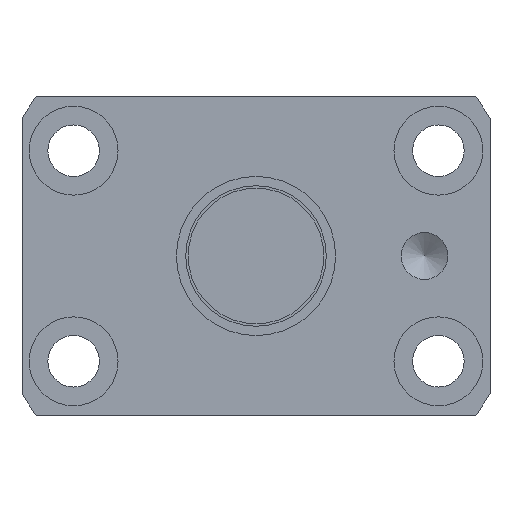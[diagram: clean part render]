
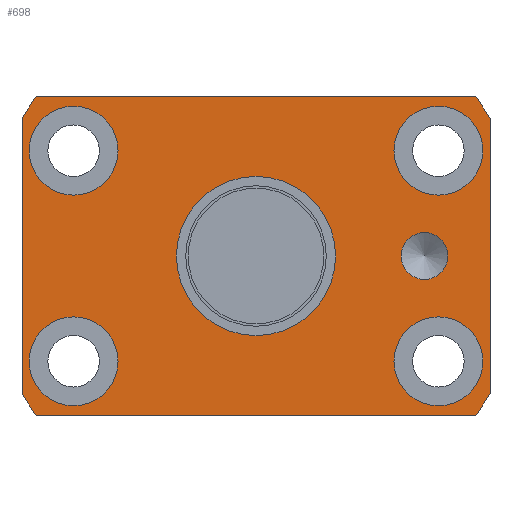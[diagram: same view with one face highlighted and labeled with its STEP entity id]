
A CAD part, left-side view. The second image highlights one B-rep face of the part: STEP entity #698.
In plain terms, the highlighted planar face has unit normal (-1, 0, 0).
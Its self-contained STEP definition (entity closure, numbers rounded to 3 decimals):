
#62 = EDGE_CURVE ( 'NONE', #2269, #2269, #3252, .T. ) ;
#89 = EDGE_CURVE ( 'NONE', #1764, #626, #232, .T. ) ;
#107 = EDGE_LOOP ( 'NONE', ( #3181 ) ) ;
#112 = CARTESIAN_POINT ( 'NONE',  ( 0., -19.486, 11.25 ) ) ;
#125 = LINE ( 'NONE', #908, #2902 ) ;
#139 = CIRCLE ( 'NONE', #814, 29. ) ;
#183 = DIRECTION ( 'NONE',  ( 0., 1., 0. ) ) ;
#204 = CARTESIAN_POINT ( 'NONE',  ( 0., -25., -17. ) ) ;
#208 = EDGE_CURVE ( 'NONE', #475, #475, #1266, .T. ) ;
#222 = ORIENTED_EDGE ( 'NONE', *, *, #2153, .F. ) ;
#232 = CIRCLE ( 'NONE', #1601, 29. ) ;
#262 = LINE ( 'NONE', #2767, #2720 ) ;
#310 = EDGE_LOOP ( 'NONE', ( #3323 ) ) ;
#321 = CARTESIAN_POINT ( 'NONE',  ( 0., 25., -14.697 ) ) ;
#322 = VERTEX_POINT ( 'NONE', #1827 ) ;
#345 = ORIENTED_EDGE ( 'NONE', *, *, #1289, .F. ) ;
#347 = ORIENTED_EDGE ( 'NONE', *, *, #3199, .F. ) ;
#413 = CIRCLE ( 'NONE', #2242, 8.5 ) ;
#432 = CARTESIAN_POINT ( 'NONE',  ( 0., -25., 14.697 ) ) ;
#460 = DIRECTION ( 'NONE',  ( 0., 1., 0. ) ) ;
#461 = DIRECTION ( 'NONE',  ( 0., 1., 0. ) ) ;
#475 = VERTEX_POINT ( 'NONE', #2033 ) ;
#484 = EDGE_CURVE ( 'NONE', #2578, #2578, #2936, .T. ) ;
#487 = FACE_BOUND ( 'NONE', #1405, .T. ) ;
#489 = DIRECTION ( 'NONE',  ( 0., -1., 0. ) ) ;
#523 = AXIS2_PLACEMENT_3D ( 'NONE', #1237, #2264, #183 ) ;
#525 = EDGE_CURVE ( 'NONE', #1711, #569, #1364, .T. ) ;
#569 = VERTEX_POINT ( 'NONE', #929 ) ;
#576 = EDGE_CURVE ( 'NONE', #1690, #1989, #1813, .T. ) ;
#606 = CARTESIAN_POINT ( 'NONE',  ( 0., 0., 0. ) ) ;
#626 = VERTEX_POINT ( 'NONE', #432 ) ;
#698 = ADVANCED_FACE ( 'NONE', ( #487, #1818, #3310, #2337, #3135, #2099, #2063 ), #3081, .T. ) ;
#763 = DIRECTION ( 'NONE',  ( 0., 1., 0. ) ) ;
#772 = DIRECTION ( 'NONE',  ( 0., 1., 0. ) ) ;
#814 = AXIS2_PLACEMENT_3D ( 'NONE', #2022, #3059, #763 ) ;
#816 = DIRECTION ( 'NONE',  ( 0., 1., 0. ) ) ;
#857 = AXIS2_PLACEMENT_3D ( 'NONE', #1511, #1295, #2790 ) ;
#908 = CARTESIAN_POINT ( 'NONE',  ( 0., -25., 17. ) ) ;
#929 = CARTESIAN_POINT ( 'NONE',  ( 0., 25., 14.697 ) ) ;
#987 = ORIENTED_EDGE ( 'NONE', *, *, #2118, .F. ) ;
#999 = DIRECTION ( 'NONE',  ( 0., 0., 1. ) ) ;
#1111 = CARTESIAN_POINT ( 'NONE',  ( 0., 19.486, 11.25 ) ) ;
#1121 = VERTEX_POINT ( 'NONE', #3226 ) ;
#1237 = CARTESIAN_POINT ( 'NONE',  ( 0., 0., 0. ) ) ;
#1266 = CIRCLE ( 'NONE', #2287, 4.75 ) ;
#1282 = ORIENTED_EDGE ( 'NONE', *, *, #484, .T. ) ;
#1287 = ORIENTED_EDGE ( 'NONE', *, *, #2396, .T. ) ;
#1289 = EDGE_CURVE ( 'NONE', #1121, #1711, #2620, .T. ) ;
#1295 = DIRECTION ( 'NONE',  ( -1., 0., 0. ) ) ;
#1302 = CARTESIAN_POINT ( 'NONE',  ( 0., 0., 0. ) ) ;
#1342 = DIRECTION ( 'NONE',  ( 1., 0., 0. ) ) ;
#1343 = CIRCLE ( 'NONE', #3321, 2.5 ) ;
#1364 = LINE ( 'NONE', #3201, #2937 ) ;
#1367 = CARTESIAN_POINT ( 'NONE',  ( 0., 8.5, 0. ) ) ;
#1402 = DIRECTION ( 'NONE',  ( 0., 1., 0. ) ) ;
#1405 = EDGE_LOOP ( 'NONE', ( #2109 ) ) ;
#1444 = ORIENTED_EDGE ( 'NONE', *, *, #525, .F. ) ;
#1445 = ORIENTED_EDGE ( 'NONE', *, *, #1880, .F. ) ;
#1474 = AXIS2_PLACEMENT_3D ( 'NONE', #1111, #1887, #2136 ) ;
#1476 = VERTEX_POINT ( 'NONE', #3066 ) ;
#1511 = CARTESIAN_POINT ( 'NONE',  ( 0., 12.75, 0. ) ) ;
#1567 = DIRECTION ( 'NONE',  ( 1., 0., 0. ) ) ;
#1594 = VERTEX_POINT ( 'NONE', #1635 ) ;
#1601 = AXIS2_PLACEMENT_3D ( 'NONE', #1302, #3110, #816 ) ;
#1635 = CARTESIAN_POINT ( 'NONE',  ( 0., 24.236, -11.25 ) ) ;
#1636 = DIRECTION ( 'NONE',  ( 0., 1., 0. ) ) ;
#1669 = AXIS2_PLACEMENT_3D ( 'NONE', #1999, #2073, #460 ) ;
#1690 = VERTEX_POINT ( 'NONE', #1888 ) ;
#1711 = VERTEX_POINT ( 'NONE', #321 ) ;
#1723 = EDGE_LOOP ( 'NONE', ( #1287 ) ) ;
#1750 = ORIENTED_EDGE ( 'NONE', *, *, #208, .T. ) ;
#1764 = VERTEX_POINT ( 'NONE', #1934 ) ;
#1774 = CARTESIAN_POINT ( 'NONE',  ( 0., 24.236, 11.25 ) ) ;
#1806 = LINE ( 'NONE', #204, #2461 ) ;
#1813 = CIRCLE ( 'NONE', #523, 29. ) ;
#1815 = AXIS2_PLACEMENT_3D ( 'NONE', #2780, #1567, #461 ) ;
#1818 = FACE_BOUND ( 'NONE', #310, .T. ) ;
#1827 = CARTESIAN_POINT ( 'NONE',  ( 0., -18., 2.5 ) ) ;
#1880 = EDGE_CURVE ( 'NONE', #1476, #1764, #262, .T. ) ;
#1887 = DIRECTION ( 'NONE',  ( 1., 0., 0. ) ) ;
#1888 = CARTESIAN_POINT ( 'NONE',  ( 0., -25., -14.697 ) ) ;
#1905 = DIRECTION ( 'NONE',  ( 0., 0., 1. ) ) ;
#1934 = CARTESIAN_POINT ( 'NONE',  ( 0., -23.495, 17. ) ) ;
#1972 = DIRECTION ( 'NONE',  ( -1., 0., 0. ) ) ;
#1989 = VERTEX_POINT ( 'NONE', #2064 ) ;
#1999 = CARTESIAN_POINT ( 'NONE',  ( 0., 19.486, -11.25 ) ) ;
#2022 = CARTESIAN_POINT ( 'NONE',  ( 0., 0., 0. ) ) ;
#2033 = CARTESIAN_POINT ( 'NONE',  ( 0., -14.736, 11.25 ) ) ;
#2038 = EDGE_CURVE ( 'NONE', #322, #322, #1343, .T. ) ;
#2063 = FACE_BOUND ( 'NONE', #1723, .T. ) ;
#2064 = CARTESIAN_POINT ( 'NONE',  ( 0., -23.495, -17. ) ) ;
#2073 = DIRECTION ( 'NONE',  ( 1., 0., 0. ) ) ;
#2096 = EDGE_LOOP ( 'NONE', ( #1750 ) ) ;
#2099 = FACE_OUTER_BOUND ( 'NONE', #2253, .T. ) ;
#2107 = DIRECTION ( 'NONE',  ( 1., 0., 0. ) ) ;
#2109 = ORIENTED_EDGE ( 'NONE', *, *, #2038, .F. ) ;
#2117 = VERTEX_POINT ( 'NONE', #1367 ) ;
#2118 = EDGE_CURVE ( 'NONE', #569, #1476, #139, .T. ) ;
#2136 = DIRECTION ( 'NONE',  ( 0., 1., 0. ) ) ;
#2142 = CIRCLE ( 'NONE', #1669, 4.75 ) ;
#2153 = EDGE_CURVE ( 'NONE', #1989, #1121, #1806, .T. ) ;
#2227 = CARTESIAN_POINT ( 'NONE',  ( 0., -18., 0. ) ) ;
#2242 = AXIS2_PLACEMENT_3D ( 'NONE', #606, #1342, #1636 ) ;
#2253 = EDGE_LOOP ( 'NONE', ( #222, #3180, #347, #2701, #1445, #987, #1444, #345 ) ) ;
#2264 = DIRECTION ( 'NONE',  ( 1., 0., 0. ) ) ;
#2269 = VERTEX_POINT ( 'NONE', #2291 ) ;
#2287 = AXIS2_PLACEMENT_3D ( 'NONE', #112, #2706, #1402 ) ;
#2291 = CARTESIAN_POINT ( 'NONE',  ( 0., -14.736, -11.25 ) ) ;
#2337 = FACE_BOUND ( 'NONE', #3349, .T. ) ;
#2383 = CARTESIAN_POINT ( 'NONE',  ( 0., -19.486, -11.25 ) ) ;
#2396 = EDGE_CURVE ( 'NONE', #2117, #2117, #413, .T. ) ;
#2460 = DIRECTION ( 'NONE',  ( 0., 0., -1. ) ) ;
#2461 = VECTOR ( 'NONE', #772, 1000. ) ;
#2578 = VERTEX_POINT ( 'NONE', #1774 ) ;
#2620 = CIRCLE ( 'NONE', #1815, 29. ) ;
#2701 = ORIENTED_EDGE ( 'NONE', *, *, #89, .F. ) ;
#2706 = DIRECTION ( 'NONE',  ( 1., 0., 0. ) ) ;
#2720 = VECTOR ( 'NONE', #489, 1000. ) ;
#2767 = CARTESIAN_POINT ( 'NONE',  ( 0., 25., 17. ) ) ;
#2780 = CARTESIAN_POINT ( 'NONE',  ( 0., 0., 0. ) ) ;
#2790 = DIRECTION ( 'NONE',  ( 0., 0., 1. ) ) ;
#2902 = VECTOR ( 'NONE', #2460, 1000. ) ;
#2936 = CIRCLE ( 'NONE', #1474, 4.75 ) ;
#2937 = VECTOR ( 'NONE', #1905, 1000. ) ;
#2991 = EDGE_CURVE ( 'NONE', #1594, #1594, #2142, .T. ) ;
#3059 = DIRECTION ( 'NONE',  ( 1., 0., 0. ) ) ;
#3066 = CARTESIAN_POINT ( 'NONE',  ( 0., 23.495, 17. ) ) ;
#3081 = PLANE ( 'NONE',  #857 ) ;
#3110 = DIRECTION ( 'NONE',  ( 1., 0., 0. ) ) ;
#3129 = DIRECTION ( 'NONE',  ( 0., 1., 0. ) ) ;
#3135 = FACE_BOUND ( 'NONE', #107, .T. ) ;
#3180 = ORIENTED_EDGE ( 'NONE', *, *, #576, .F. ) ;
#3181 = ORIENTED_EDGE ( 'NONE', *, *, #62, .T. ) ;
#3199 = EDGE_CURVE ( 'NONE', #626, #1690, #125, .T. ) ;
#3201 = CARTESIAN_POINT ( 'NONE',  ( 0., 25., -17. ) ) ;
#3206 = AXIS2_PLACEMENT_3D ( 'NONE', #2383, #2107, #3129 ) ;
#3226 = CARTESIAN_POINT ( 'NONE',  ( 0., 23.495, -17. ) ) ;
#3252 = CIRCLE ( 'NONE', #3206, 4.75 ) ;
#3310 = FACE_BOUND ( 'NONE', #2096, .T. ) ;
#3321 = AXIS2_PLACEMENT_3D ( 'NONE', #2227, #1972, #999 ) ;
#3323 = ORIENTED_EDGE ( 'NONE', *, *, #2991, .T. ) ;
#3349 = EDGE_LOOP ( 'NONE', ( #1282 ) ) ;
